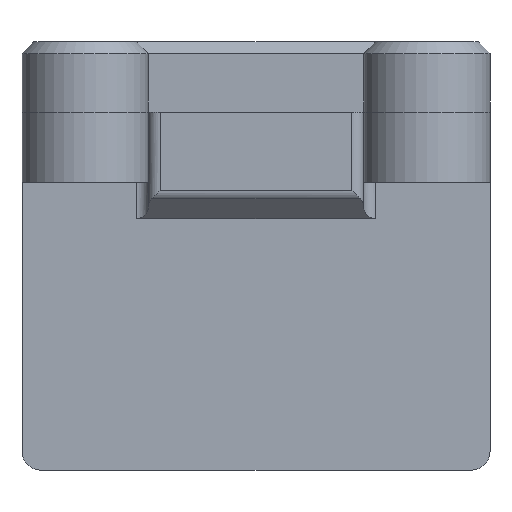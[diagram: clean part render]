
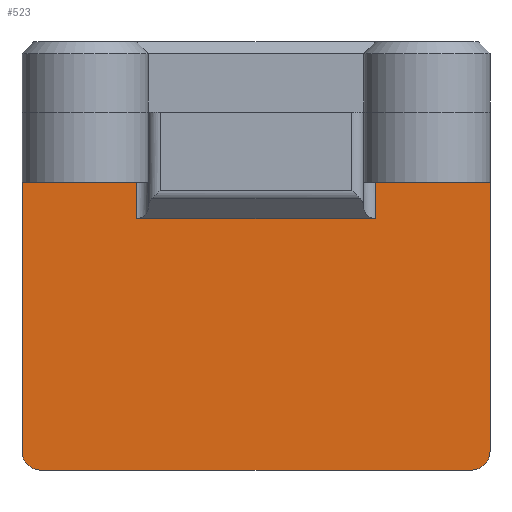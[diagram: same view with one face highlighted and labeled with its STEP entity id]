
A CAD part, front view. The second image highlights one B-rep face of the part: STEP entity #523.
In plain terms, the highlighted planar face has unit normal (0, -1, 0).
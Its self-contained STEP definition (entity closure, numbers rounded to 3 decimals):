
#335=FACE_OUTER_BOUND('',#1532,.T.);
#523=ADVANCED_FACE('',(#335),#620,.T.);
#620=PLANE('',#4039);
#895=LINE('',#6087,#1215);
#896=LINE('',#6093,#1216);
#909=LINE('',#6144,#1229);
#923=LINE('',#6196,#1243);
#932=LINE('',#6216,#1252);
#945=LINE('',#6243,#1265);
#946=LINE('',#6245,#1266);
#947=LINE('',#6246,#1267);
#1215=VECTOR('',#4952,1.);
#1216=VECTOR('',#4959,1.);
#1229=VECTOR('',#5012,1.);
#1243=VECTOR('',#5062,1.);
#1252=VECTOR('',#5077,1.);
#1265=VECTOR('',#5102,1.);
#1266=VECTOR('',#5105,1.);
#1267=VECTOR('',#5106,1.);
#1532=EDGE_LOOP('',(#2521,#2522,#2523,#2524,#2525,#2526,#2527,#2528,#2529,
#2530));
#2521=ORIENTED_EDGE('',*,*,#3449,.F.);
#2522=ORIENTED_EDGE('',*,*,#3366,.T.);
#2523=ORIENTED_EDGE('',*,*,#3464,.F.);
#2524=ORIENTED_EDGE('',*,*,#3364,.T.);
#2525=ORIENTED_EDGE('',*,*,#3438,.T.);
#2526=ORIENTED_EDGE('',*,*,#3465,.F.);
#2527=ORIENTED_EDGE('',*,*,#3387,.T.);
#2528=ORIENTED_EDGE('',*,*,#3412,.T.);
#2529=ORIENTED_EDGE('',*,*,#3384,.T.);
#2530=ORIENTED_EDGE('',*,*,#3466,.F.);
#2879=VERTEX_POINT('',#6044);
#2880=VERTEX_POINT('',#6046);
#2881=VERTEX_POINT('',#6050);
#2882=VERTEX_POINT('',#6051);
#2897=VERTEX_POINT('',#6088);
#2898=VERTEX_POINT('',#6089);
#2899=VERTEX_POINT('',#6094);
#2900=VERTEX_POINT('',#6095);
#2937=VERTEX_POINT('',#6197);
#2945=VERTEX_POINT('',#6217);
#3364=EDGE_CURVE('',#2880,#2879,#3639,.T.);
#3366=EDGE_CURVE('',#2881,#2882,#3640,.T.);
#3384=EDGE_CURVE('',#2897,#2898,#895,.T.);
#3387=EDGE_CURVE('',#2899,#2900,#896,.T.);
#3412=EDGE_CURVE('',#2900,#2897,#909,.T.);
#3438=EDGE_CURVE('',#2879,#2937,#923,.T.);
#3449=EDGE_CURVE('',#2881,#2945,#932,.T.);
#3464=EDGE_CURVE('',#2880,#2882,#945,.T.);
#3465=EDGE_CURVE('',#2899,#2937,#946,.T.);
#3466=EDGE_CURVE('',#2945,#2898,#947,.T.);
#3639=CIRCLE('',#3974,0.8);
#3640=CIRCLE('',#3976,0.8);
#3974=AXIS2_PLACEMENT_3D('',#6045,#4913,#4914);
#3976=AXIS2_PLACEMENT_3D('',#6049,#4918,#4919);
#4039=AXIS2_PLACEMENT_3D('',#6247,#5107,#5108);
#4913=DIRECTION('',(0.,-1.,0.));
#4914=DIRECTION('',(0.,0.,-1.));
#4918=DIRECTION('',(0.,-1.,0.));
#4919=DIRECTION('',(0.,0.,-1.));
#4952=DIRECTION('',(0.,0.,1.));
#4959=DIRECTION('',(0.,0.,-1.));
#5012=DIRECTION('',(-1.,0.,0.));
#5062=DIRECTION('',(0.,0.,1.));
#5077=DIRECTION('',(0.,0.,1.));
#5102=DIRECTION('',(-1.,0.,0.));
#5105=DIRECTION('',(1.,0.,0.));
#5106=DIRECTION('',(1.,0.,0.));
#5107=DIRECTION('',(0.,-1.,0.));
#5108=DIRECTION('',(0.,0.,-1.));
#6044=CARTESIAN_POINT('',(19.,-1.,1.));
#6045=CARTESIAN_POINT('',(18.2,-1.,1.));
#6046=CARTESIAN_POINT('',(18.2,-1.,0.2));
#6049=CARTESIAN_POINT('',(-0.2,-1.,1.));
#6050=CARTESIAN_POINT('',(-1.,-1.,1.));
#6051=CARTESIAN_POINT('',(-0.2,-1.,0.2));
#6087=CARTESIAN_POINT('',(3.9,-1.,7.));
#6088=CARTESIAN_POINT('',(3.9,-1.,10.95));
#6089=CARTESIAN_POINT('',(3.9,-1.,12.5));
#6093=CARTESIAN_POINT('',(14.1,-1.,10.95));
#6094=CARTESIAN_POINT('',(14.1,-1.,12.5));
#6095=CARTESIAN_POINT('',(14.1,-1.,10.95));
#6144=CARTESIAN_POINT('',(13.6,-1.,10.95));
#6196=CARTESIAN_POINT('',(19.,-1.,7.));
#6197=CARTESIAN_POINT('',(19.,-1.,12.5));
#6216=CARTESIAN_POINT('',(-1.,-1.,7.));
#6217=CARTESIAN_POINT('',(-1.,-1.,12.5));
#6243=CARTESIAN_POINT('',(19.,-1.,0.2));
#6245=CARTESIAN_POINT('',(-1.,-1.,12.5));
#6246=CARTESIAN_POINT('',(-1.,-1.,12.5));
#6247=CARTESIAN_POINT('',(-1.,-1.,7.));
